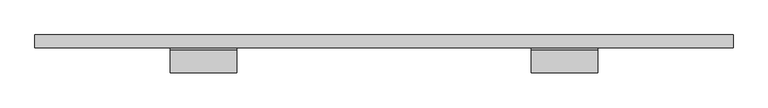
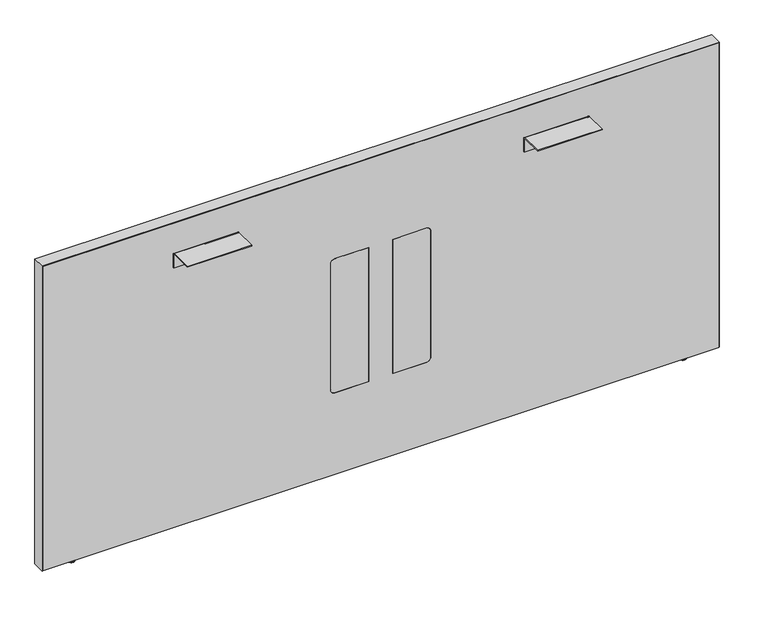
"""IFC4 building model written with IfcOpenShell, lengths in millimetres: furniture geometry, Steelcase - Answer Solution - Boundary Screen - Straight - Spanning : 30H x 63W."""

from ifc_helpers import new_model, si_unit, point, frame, frame_2d, origin, place, context, project, spatial, polyline, circle_curve, ellipse_curve, trimmed, segment, composite_curve, outline, extrude, source, transform, mapped, element, save
from ifc_brep_helpers import plane_surface, cylinder_surface, revolved_surface, advanced_brep


def furniture_d033b3d3(model_context):
    return source(origin(), model_context, "Body", "SolidModel", [
        advanced_brep(
        [(-493.0902705, -14.8449166, 9.9059849), (-493.0902705, -5.9309607, 9.9059849), (-493.0902705, -23.7588726, 9.9059849), (-493.0902705, -5.9309607, 2.9673238), (-493.0902705, -23.7588726, 2.9673238), (-493.0902705, -6.8982978, 2.9673238), (-493.0902705, -22.7915354, 2.9673238), (-493.0902705, -6.8982978, 1.6569081), (-493.0902705, -22.7915354, 1.6569081), (-493.0902705, -8.5552059, 0.0), (-493.0902705, -21.1346274, 0.0), (-493.0902705, -14.8449166, 0.0)],
        [
            (0, 1),
            (1, 2, circle_curve(frame((-493.0902705, -14.8449166, 9.9059849), z_axis=(0.0, 0.0, 1.0), x_axis=(0.0, 1.0, 0.0)), 8.913956)),
            (2, 0),
            (2, 1, circle_curve(frame((-493.0902705, -14.8449166, 9.9059849), z_axis=(0.0, 0.0, 1.0), x_axis=(0.0, 1.0, 0.0)), 8.913956)),
            (1, 3),
            (3, 4, circle_curve(frame((-493.0902705, -14.8449166, 2.9673238), z_axis=(0.0, 0.0, 1.0), x_axis=(0.0, 1.0, 0.0)), 8.913956)),
            (4, 2),
            (4, 3, circle_curve(frame((-493.0902705, -14.8449166, 2.9673238), z_axis=(0.0, 0.0, 1.0), x_axis=(0.0, 1.0, 0.0)), 8.913956)),
            (3, 5),
            (5, 6, circle_curve(frame((-493.0902705, -14.8449166, 2.9673238), z_axis=(0.0, 0.0, 1.0), x_axis=(0.0, 1.0, 0.0)), 7.9466188)),
            (6, 4),
            (6, 5, circle_curve(frame((-493.0902705, -14.8449166, 2.9673238), z_axis=(0.0, 0.0, 1.0), x_axis=(0.0, 1.0, 0.0)), 7.9466188)),
            (5, 7),
            (7, 8, circle_curve(frame((-493.0902705, -14.8449166, 1.6569081), z_axis=(0.0, 0.0, 1.0), x_axis=(0.0, 1.0, 0.0)), 7.9466188)),
            (8, 6),
            (8, 7, circle_curve(frame((-493.0902705, -14.8449166, 1.6569081), z_axis=(0.0, 0.0, 1.0), x_axis=(0.0, 1.0, 0.0)), 7.9466188)),
            (7, 9, circle_curve(frame((-493.0902705, -8.5552059, 1.6569081), z_axis=(-1.0, 0.0, 0.0), x_axis=(0.0, 1.0, 0.0)), 1.6569081)),
            (9, 10, circle_curve(frame((-493.0902705, -14.8449166, 0.0), z_axis=(0.0, 0.0, 1.0), x_axis=(0.0, 1.0, 0.0)), 6.2897107)),
            (10, 8, circle_curve(frame((-493.0902705, -21.1346274, 1.6569081), z_axis=(-1.0, 0.0, 0.0), x_axis=(0.0, -1.0, 0.0)), 1.6569081)),
            (10, 9, circle_curve(frame((-493.0902705, -14.8449166, 0.0), z_axis=(0.0, 0.0, 1.0), x_axis=(0.0, 1.0, 0.0)), 6.2897107)),
            (9, 11),
            (11, 10),
        ],
        [
            plane_surface(frame((-493.0902705, -14.8449166, 9.9059849), z_axis=(0.0, 0.0, 1.0), x_axis=(0.0, 1.0, 0.0))),
            cylinder_surface(frame((-493.0902705, -14.8449166, 9.9059849), z_axis=(0.0, 0.0, 1.0), x_axis=(0.0, 1.0, 0.0)), 8.913956),
            plane_surface(frame((-493.0902705, -14.8449166, 2.9673238), z_axis=(0.0, 0.0, -1.0), x_axis=(0.0, 1.0, 0.0))),
            cylinder_surface(frame((-493.0902705, -14.8449166, 9.9059849), z_axis=(0.0, 0.0, 1.0), x_axis=(0.0, 1.0, 0.0)), 7.9466188),
            revolved_surface(trimmed(ellipse_curve(frame((-493.0902705, -8.5552059, 1.6569081), z_axis=(1.0, 0.0, 0.0), x_axis=(0.0, 1.0, 0.0)), 1.6569081, 1.6569081), [point((-493.0902705, -8.5552059, 0.0))], [point((-493.0902705, -6.8982978, 1.6569081))], True, "CARTESIAN"), (-493.0902705, -14.8449166, 9.9059849), (0.0, 0.0, 1.0)),
            plane_surface(frame((-493.0902705, -14.8449166, 0.0), z_axis=(0.0, 0.0, -1.0), x_axis=(0.0, 1.0, 0.0))),
        ],
        [
            (0, [[1, 2, 3]]),
            (0, [[-3, 4, -1]]),
            (1, [[-2, 5, 6, 7]]),
            (1, [[-4, -7, 8, -5]]),
            (2, [[-6, 9, 10, 11]]),
            (2, [[-8, -11, 12, -9]]),
            (3, [[-10, 13, 14, 15]]),
            (3, [[-12, -15, 16, -13]]),
            (4, [[-14, 17, 18, 19]]),
            (4, [[-16, -19, 20, -17]]),
            (5, [[-18, 21, 22]]),
            (5, [[-20, -22, -21]]),
        ],
    ),
        extrude(outline(composite_curve([segment(polyline([(-86.8398151, 696.4680019), (-86.8398151, 698.5), (-34.9450855, 698.5)]), True, "CONTINUOUS"), segment(trimmed(circle_curve(frame_2d((-34.9450855, 693.2447477)), 5.2552523), [point((-34.9450855, 698.5))], [point((-29.6898332, 693.2447477))], False, "CARTESIAN"), True, "CONTINUOUS"), segment(polyline([(-29.6898332, 693.2447477), (-29.6898332, 660.4), (-31.7218162, 660.4), (-31.7218162, 693.0058743)]), True, "CONTINUOUS"), segment(trimmed(circle_curve(frame_2d((-35.1839438, 693.0058743)), 3.4621276), [point((-31.7218162, 693.0058743))], [point((-35.1839438, 696.4680019))], True, "CARTESIAN"), True, "CONTINUOUS"), segment(polyline([(-35.1839438, 696.4680019), (-86.8398151, 696.4680019)]), True, "CONTINUOUS")], self_intersect=False)), frame((567.8282189, 0.0, 0.0), z_axis=(1.0, 0.0, 0.0), x_axis=(0.0, 1.0, 0.0)), (0.0, 0.0, 1.0), 152.4000969),
        extrude(outline(composite_curve([segment(polyline([(-86.8398151, 696.4680019), (-86.8398151, 698.5), (-34.9450855, 698.5)]), True, "CONTINUOUS"), segment(trimmed(circle_curve(frame_2d((-34.9450855, 693.2447477)), 5.2552523), [point((-34.9450855, 698.5))], [point((-29.6898332, 693.2447477))], False, "CARTESIAN"), True, "CONTINUOUS"), segment(polyline([(-29.6898332, 693.2447477), (-29.6898332, 660.4), (-31.7218162, 660.4), (-31.7218162, 693.0058743)]), True, "CONTINUOUS"), segment(trimmed(circle_curve(frame_2d((-35.1839438, 693.0058743)), 3.4621276), [point((-31.7218162, 693.0058743))], [point((-35.1839438, 696.4680019))], True, "CARTESIAN"), True, "CONTINUOUS"), segment(polyline([(-35.1839438, 696.4680019), (-86.8398151, 696.4680019)]), True, "CONTINUOUS")], self_intersect=False)), frame((-260.5884581, 0.0, 0.0), z_axis=(1.0, 0.0, 0.0), x_axis=(0.0, 1.0, 0.0)), (0.0, 0.0, 1.0), 152.4000969),
        advanced_brep(
        [(952.7286488, -23.7588726, 9.9059849), (952.7286488, -5.9309607, 9.9059849), (952.7286488, -14.8449166, 9.9059849), (952.7286488, -23.7588726, 2.9673238), (952.7286488, -5.9309607, 2.9673238), (952.7286488, -22.7915354, 2.9673238), (952.7286488, -6.8982978, 2.9673238), (952.7286488, -22.7915354, 1.6569081), (952.7286488, -6.8982978, 1.6569081), (952.7286488, -21.1346274, 0.0), (952.7286488, -8.5552059, 0.0), (952.7286488, -14.8449166, 0.0)],
        [
            (0, 1, circle_curve(frame((952.7286488, -14.8449166, 9.9059849), z_axis=(0.0, 0.0, 1.0), x_axis=(0.0, 1.0, 0.0)), 8.913956)),
            (1, 2),
            (2, 0),
            (1, 0, circle_curve(frame((952.7286488, -14.8449166, 9.9059849), z_axis=(0.0, 0.0, 1.0), x_axis=(0.0, 1.0, 0.0)), 8.913956)),
            (3, 4, circle_curve(frame((952.7286488, -14.8449166, 2.9673238), z_axis=(0.0, 0.0, 1.0), x_axis=(0.0, 1.0, 0.0)), 8.913956)),
            (4, 1),
            (0, 3),
            (4, 3, circle_curve(frame((952.7286488, -14.8449166, 2.9673238), z_axis=(0.0, 0.0, 1.0), x_axis=(0.0, 1.0, 0.0)), 8.913956)),
            (5, 6, circle_curve(frame((952.7286488, -14.8449166, 2.9673238), z_axis=(0.0, 0.0, 1.0), x_axis=(0.0, 1.0, 0.0)), 7.9466188)),
            (6, 4),
            (3, 5),
            (6, 5, circle_curve(frame((952.7286488, -14.8449166, 2.9673238), z_axis=(0.0, 0.0, 1.0), x_axis=(0.0, 1.0, 0.0)), 7.9466188)),
            (7, 8, circle_curve(frame((952.7286488, -14.8449166, 1.6569081), z_axis=(0.0, 0.0, 1.0), x_axis=(0.0, 1.0, 0.0)), 7.9466188)),
            (8, 6),
            (5, 7),
            (8, 7, circle_curve(frame((952.7286488, -14.8449166, 1.6569081), z_axis=(0.0, 0.0, 1.0), x_axis=(0.0, 1.0, 0.0)), 7.9466188)),
            (9, 10, circle_curve(frame((952.7286488, -14.8449166, 0.0), z_axis=(0.0, 0.0, 1.0), x_axis=(0.0, 1.0, 0.0)), 6.2897107)),
            (10, 8, circle_curve(frame((952.7286488, -8.5552059, 1.6569081), z_axis=(1.0, 0.0, 0.0), x_axis=(0.0, 1.0, 0.0)), 1.6569081)),
            (7, 9, circle_curve(frame((952.7286488, -21.1346274, 1.6569081), z_axis=(1.0, 0.0, 0.0), x_axis=(0.0, -1.0, 0.0)), 1.6569081)),
            (10, 9, circle_curve(frame((952.7286488, -14.8449166, 0.0), z_axis=(0.0, 0.0, 1.0), x_axis=(0.0, 1.0, 0.0)), 6.2897107)),
            (11, 10),
            (9, 11),
        ],
        [
            plane_surface(frame((952.7286488, -14.8449166, 9.9059849), z_axis=(0.0, 0.0, 1.0), x_axis=(0.0, 1.0, 0.0))),
            cylinder_surface(frame((952.7286488, -14.8449166, 9.9059849), z_axis=(0.0, 0.0, -1.0), x_axis=(0.0, 1.0, 0.0)), 8.913956),
            plane_surface(frame((952.7286488, -14.8449166, 2.9673238), z_axis=(0.0, 0.0, -1.0), x_axis=(0.0, 1.0, 0.0))),
            cylinder_surface(frame((952.7286488, -14.8449166, 9.9059849), z_axis=(0.0, 0.0, -1.0), x_axis=(0.0, 1.0, 0.0)), 7.9466188),
            revolved_surface(trimmed(ellipse_curve(frame((952.7286488, -8.5552059, 1.6569081), z_axis=(-1.0, 0.0, 0.0), x_axis=(0.0, 1.0, 0.0)), 1.6569081, 1.6569081), [point((952.7286488, -6.8982978, 1.6569081))], [point((952.7286488, -8.5552059, 0.0))], True, "CARTESIAN"), (952.7286488, -14.8449166, 9.9059849), (0.0, 0.0, -1.0)),
            plane_surface(frame((952.7286488, -14.8449166, 0.0), z_axis=(0.0, 0.0, -1.0), x_axis=(0.0, 1.0, 0.0))),
        ],
        [
            (0, [[1, 2, 3]]),
            (0, [[4, -3, -2]]),
            (1, [[5, 6, -1, 7]]),
            (1, [[8, -7, -4, -6]]),
            (2, [[9, 10, -5, 11]]),
            (2, [[12, -11, -8, -10]]),
            (3, [[13, 14, -9, 15]]),
            (3, [[16, -15, -12, -14]]),
            (4, [[17, 18, -13, 19]]),
            (4, [[20, -19, -16, -18]]),
            (5, [[21, -17, 22]]),
            (5, [[-22, -20, -21]]),
        ],
    ),
        advanced_brep(
        [(1028.8780168, 0.0, 771.942118), (1028.8780168, 0.0, 9.9059849), (-569.2902221, 0.0, 9.9059849), (-569.2902221, 0.0, 771.942118), (1028.8780168, -29.6898332, 771.942118), (-569.2902221, -29.6898332, 771.942118), (-569.2902221, -29.6898332, 9.9059849), (1028.8780168, -29.6898332, 9.9059849), (337.7883813, -29.6898332, 549.6162029), (347.9483813, -29.6898332, 539.4562029), (347.9483813, -29.6898332, 223.9362137), (337.7883813, -29.6898332, 213.7762137), (258.1344836, -29.6898332, 213.7762137), (258.1344836, -29.6898332, 549.6162029), (121.849997, -29.6898332, 549.6162029), (201.5038947, -29.6898332, 549.6162029), (201.5038947, -29.6898332, 213.7762137), (121.849997, -29.6898332, 213.7762137), (111.689997, -29.6898332, 223.9362137), (111.689997, -29.6898332, 539.4562029), (258.1344836, -29.0550397, 549.6162029), (337.7883813, -29.0550397, 549.6162029), (258.1344836, -29.0550397, 213.7762137), (337.7883813, -29.0550397, 213.7762137), (347.9483813, -29.0550397, 223.9362137), (347.9483813, -29.0550397, 539.4562029), (121.849997, -29.0550397, 549.6162029), (111.689997, -29.0550397, 539.4562029), (111.689997, -29.0550397, 223.9362137), (121.849997, -29.0550397, 213.7762137), (201.5038947, -29.0550397, 213.7762137), (201.5038947, -29.0550397, 549.6162029)],
        [
            (0, 1),
            (1, 2),
            (2, 3),
            (3, 0),
            (4, 5),
            (5, 6),
            (6, 7),
            (7, 4),
            (8, 9, circle_curve(frame((337.7883813, -29.6898332, 539.4562029), z_axis=(0.0, 1.0, 0.0), x_axis=(0.0, 0.0, 1.0)), 10.16)),
            (9, 10),
            (10, 11, circle_curve(frame((337.7883813, -29.6898332, 223.9362137), z_axis=(0.0, 1.0, 0.0), x_axis=(0.0, 0.0, 1.0)), 10.16)),
            (11, 12),
            (12, 13),
            (13, 8),
            (14, 15),
            (15, 16),
            (16, 17),
            (17, 18, circle_curve(frame((121.849997, -29.6898332, 223.9362137), z_axis=(0.0, 1.0, 0.0), x_axis=(0.0, 0.0, 1.0)), 10.16)),
            (18, 19),
            (19, 14, circle_curve(frame((121.849997, -29.6898332, 539.4562029), z_axis=(0.0, 1.0, 0.0), x_axis=(0.0, 0.0, 1.0)), 10.16)),
            (0, 4),
            (7, 1),
            (6, 2),
            (5, 3),
            (13, 20),
            (20, 21),
            (21, 8),
            (12, 22),
            (22, 20),
            (11, 23),
            (23, 22),
            (10, 24),
            (24, 23, circle_curve(frame((337.7883813, -29.0550397, 223.9362137), z_axis=(0.0, 1.0, 0.0), x_axis=(0.0, 0.0, 1.0)), 10.16)),
            (9, 25),
            (25, 24),
            (21, 25, circle_curve(frame((337.7883813, -29.0550397, 539.4562029), z_axis=(0.0, 1.0, 0.0), x_axis=(0.0, 0.0, 1.0)), 10.16)),
            (26, 27, circle_curve(frame((121.849997, -29.0550397, 539.4562029), z_axis=(0.0, -1.0, 0.0), x_axis=(0.0, 0.0, 1.0)), 10.16)),
            (27, 28),
            (28, 29, circle_curve(frame((121.849997, -29.0550397, 223.9362137), z_axis=(0.0, -1.0, 0.0), x_axis=(0.0, 0.0, 1.0)), 10.16)),
            (29, 30),
            (30, 31),
            (31, 26),
            (19, 27),
            (26, 14),
            (18, 28),
            (17, 29),
            (16, 30),
            (15, 31),
        ],
        [
            plane_surface(frame((1028.8780168, 0.0, 771.942118), z_axis=(0.0, 1.0, 0.0), x_axis=(0.0, 0.0, -1.0))),
            plane_surface(frame((1028.8780168, -29.6898332, 771.942118), z_axis=(0.0, -1.0, 0.0), x_axis=(0.0, 0.0, 1.0))),
            plane_surface(frame((1028.8780168, 0.0, 771.942118), z_axis=(1.0, 0.0, 0.0), x_axis=(0.0, -1.0, 0.0))),
            plane_surface(frame((1028.8780168, 0.0, 9.9059849), z_axis=(0.0, 0.0, -1.0), x_axis=(0.0, -1.0, 0.0))),
            plane_surface(frame((-569.2902221, 0.0, 9.9059849), z_axis=(-1.0, 0.0, 0.0), x_axis=(0.0, -1.0, 0.0))),
            plane_surface(frame((-569.2902221, 0.0, 771.942118), z_axis=(0.0, 0.0, 1.0), x_axis=(0.0, -1.0, 0.0))),
            plane_surface(frame((337.7883813, 0.0, 549.6162029), z_axis=(0.0, 0.0, -1.0), x_axis=(0.0, -1.0, 0.0))),
            plane_surface(frame((258.1344836, 0.0, 549.6162029), z_axis=(1.0, 0.0, 0.0), x_axis=(0.0, -1.0, 0.0))),
            plane_surface(frame((258.1344836, 0.0, 213.7762137), z_axis=(0.0, 0.0, 1.0), x_axis=(0.0, -1.0, 0.0))),
            revolved_surface(polyline([(337.7883813, -29.6898332, 234.0962137), (337.7883813, -29.0550397, 234.0962137)]), (337.7883813, -29.6898332, 223.9362137), (0.0, -1.0, 0.0)),
            plane_surface(frame((347.9483813, 0.0, 223.9362137), z_axis=(-1.0, 0.0, 0.0), x_axis=(0.0, -1.0, 0.0))),
            revolved_surface(polyline([(337.7883813, -29.6898332, 549.6162029), (337.7883813, -29.0550397, 549.6162029)]), (337.7883813, -29.6898332, 539.4562029), (0.0, -1.0, 0.0)),
            plane_surface(frame((347.9483813, -29.0550397, 549.6162029), z_axis=(0.0, -1.0, 0.0), x_axis=(0.0, 0.0, 1.0))),
            revolved_surface(polyline([(121.849997, -29.6898332, 549.6162029), (121.849997, -29.0550397, 549.6162029)]), (121.849997, -29.6898332, 539.4562029), (0.0, -1.0, 0.0)),
            plane_surface(frame((111.689997, 0.0, 539.4562029), z_axis=(1.0, 0.0, 0.0), x_axis=(0.0, -1.0, 0.0))),
            revolved_surface(polyline([(121.849997, -29.6898332, 234.0962137), (121.849997, -29.0550397, 234.0962137)]), (121.849997, -29.6898332, 223.9362137), (0.0, -1.0, 0.0)),
            plane_surface(frame((121.849997, 0.0, 213.7762137), z_axis=(0.0, 0.0, 1.0), x_axis=(0.0, -1.0, 0.0))),
            plane_surface(frame((201.5038947, 0.0, 213.7762137), z_axis=(-1.0, 0.0, 0.0), x_axis=(0.0, -1.0, 0.0))),
            plane_surface(frame((201.5038947, 0.0, 549.6162029), z_axis=(0.0, 0.0, -1.0), x_axis=(0.0, -1.0, 0.0))),
        ],
        [
            (0, [[1, 2, 3, 4]]),
            (1, [[5, 6, 7, 8], [9, 10, 11, 12, 13, 14], [15, 16, 17, 18, 19, 20]]),
            (2, [[-1, 21, -8, 22]]),
            (3, [[-2, -22, -7, 23]]),
            (4, [[-3, -23, -6, 24]]),
            (5, [[-4, -24, -5, -21]]),
            (6, [[-14, 25, 26, 27]]),
            (7, [[-13, 28, 29, -25]]),
            (8, [[-12, 30, 31, -28]]),
            (9, [[-11, 32, 33, -30]]),
            (10, [[-10, 34, 35, -32]]),
            (11, [[-9, -27, 36, -34]]),
            (12, [[-26, -29, -31, -33, -35, -36]]),
            (12, [[37, 38, 39, 40, 41, 42]]),
            (13, [[-20, 43, -37, 44]]),
            (14, [[-19, 45, -38, -43]]),
            (15, [[-18, 46, -39, -45]]),
            (16, [[-17, 47, -40, -46]]),
            (17, [[-16, 48, -41, -47]]),
            (18, [[-15, -44, -42, -48]]),
        ],
    ),
        extrude(outline(composite_curve([segment(polyline([(549.6162029, 337.7883813), (549.6162029, 258.1344836), (213.7762137, 258.1344836), (213.7762137, 337.7883813)]), True, "CONTINUOUS"), segment(trimmed(circle_curve(frame_2d((223.9362137, 337.7883813)), 10.16), [point((213.7762137, 337.7883813))], [point((223.9362137, 347.9483813))], False, "CARTESIAN"), True, "CONTINUOUS"), segment(polyline([(223.9362137, 347.9483813), (539.4562029, 347.9483813)]), True, "CONTINUOUS"), segment(trimmed(circle_curve(frame_2d((539.4562029, 337.7883813)), 10.16), [point((539.4562029, 347.9483813))], [point((549.6162029, 337.7883813))], False, "CARTESIAN"), True, "CONTINUOUS")], self_intersect=False)), frame((0.0, -29.6898332, 0.0), z_axis=(0.0, 1.0, 0.0), x_axis=(0.0, 0.0, 1.0)), (0.0, 0.0, 1.0), 0.6347935),
        extrude(outline(composite_curve([segment(trimmed(circle_curve(frame_2d((539.4562029, 121.849997)), 10.16), [point((549.6162029, 121.849997))], [point((539.4562029, 111.689997))], False, "CARTESIAN"), True, "CONTINUOUS"), segment(polyline([(539.4562029, 111.689997), (223.9362137, 111.689997)]), True, "CONTINUOUS"), segment(trimmed(circle_curve(frame_2d((223.9362137, 121.849997)), 10.16), [point((223.9362137, 111.689997))], [point((213.7762137, 121.849997))], False, "CARTESIAN"), True, "CONTINUOUS"), segment(polyline([(213.7762137, 121.849997), (213.7762137, 201.5038947), (549.6162029, 201.5038947), (549.6162029, 121.849997)]), True, "CONTINUOUS")], self_intersect=False)), frame((0.0, -29.6898332, 0.0), z_axis=(0.0, 1.0, 0.0), x_axis=(0.0, 0.0, 1.0)), (0.0, 0.0, 1.0), 0.6347935),
        extrude(outline(polyline([(772.922, 1029.9191891), (772.922, -570.2808109), (9.9059849, -570.2808109), (9.9059849, -569.2902221), (771.942118, -569.2902221), (771.942118, 1028.8780168), (9.9059849, 1028.8780168), (9.9059849, 1029.9191891), (772.922, 1029.9191891)])), frame((0.0, -29.6898332, 0.0), z_axis=(0.0, 1.0, 0.0), x_axis=(0.0, 0.0, 1.0)), (0.0, 0.0, 1.0), 29.6898332),
    ])


if __name__ == "__main__":
    model = new_model("IFC4")
    model_context = context("Model", 3, world=origin())
    ifc_project = project(units=[si_unit("LENGTHUNIT", "METRE", prefix="MILLI")], contexts=[model_context])
    site = spatial("IfcSite", under=ifc_project)
    building = spatial("IfcBuilding", under=site)
    placement = place(None, origin())
    furniture_shape = furniture_d033b3d3(model_context)
    element("IfcFurniture", 1, ObjectType="Steelcase - Answer Solution - Boundary Screen - Straight - Spanning : 30H x 63W", at=placement, inside=building, context=model_context, shape_type="MappedRepresentation", body=[
        mapped(furniture_shape, transform((0.0, 0.0, 0.0), x_axis=(1.0, 0.0, 0.0), y_axis=(0.0, 1.0, 0.0), z_axis=(0.0, 0.0, 1.0))),
    ])
    save(model, "model.ifc")
